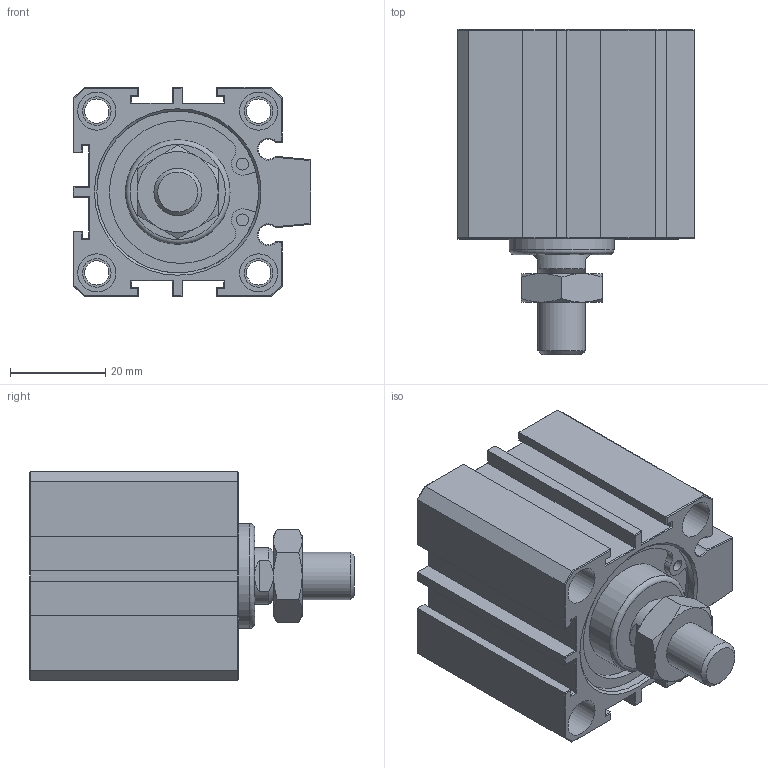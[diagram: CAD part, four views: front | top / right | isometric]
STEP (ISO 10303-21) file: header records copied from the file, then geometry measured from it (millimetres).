
FILE_DESCRIPTION(/* description */ (''),/* implementation_level */ '2;1');
FILE_NAME(/* name */ 'AJC-SDM32X10W',/* time_stamp */ '2019-06-20T15:05:16+08:00',/* author */ ('JEFF HUANG'),/* organization */ ('TAIWAN AMAC CLAMP INDUSTRIAL CO., LTD.'),/* preprocessor_version */ 'ST-DEVELOPER v16.7',/* originating_system */ 'DEX',/* authorisation */ $);
FILE_SCHEMA (('AUTOMOTIVE_DESIGN {1 0 10303 214 3 1 1}'));
Length unit declared in the file: millimetre
Products named in the file (1): AJC-SDM32X10W
Bounding box: 50 x 68.3 x 44 mm (x, y, z)
Volume: 74127.9 mm3; surface area: 21271.5 mm2
Topology: 1 solids, 1 shells, 271 faces, 590 edges, 350 vertices
Faces by surface type: plane 199, cylinder 47, cone 23, torus 2
Full cylindrical faces by diameter (mm): 2.5 x4, 5.1 x4, 6 x8, 8 x8, 9.147 x2, 10 x1, 22 x1, 23 x1, 34 x2
Entity records: 8945 total; most frequent: CARTESIAN_POINT 1276, DIRECTION 1182, ORIENTED_EDGE 1098, EDGE_CURVE 549, AXIS2_PLACEMENT_3D 397, LINE 388, VECTOR 388, VERTEX_POINT 347
